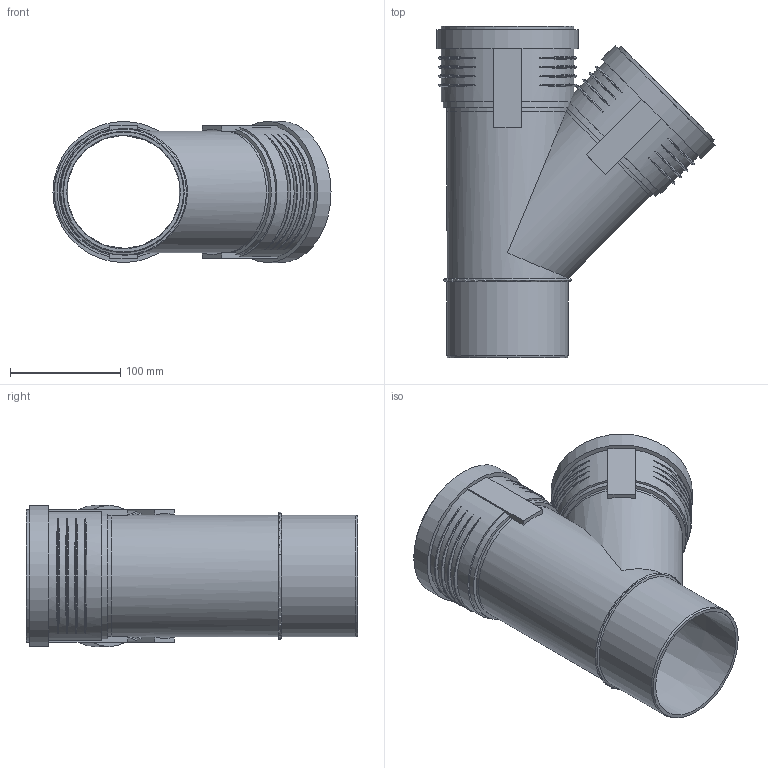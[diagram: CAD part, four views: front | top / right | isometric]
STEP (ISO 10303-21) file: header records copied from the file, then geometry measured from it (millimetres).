
FILE_DESCRIPTION(/* description */ (''),/* implementation_level */ '2;1');
FILE_NAME(/* name */ 'Z:\Geberit\Export\NewStep\390535.stp',/* time_stamp */ '2014-04-02T08:14:27+02:00',/* author */ ('ML'),/* organization */ (''),/* preprocessor_version */ 'ST-DEVELOPER v15.2',/* originating_system */ 'Autodesk Inventor 2014',/* authorisation */ '');
FILE_SCHEMA (('AUTOMOTIVE_DESIGN { 1 0 10303 214 3 1 1 }'));
Length unit declared in the file: millimetre
Products named in the file (4): 861349; 861404; 861404_1; 390535
Bounding box: 252.34 x 301.1 x 128.1 mm (x, y, z)
Volume: 573355.6 mm3; surface area: 330874.5 mm2
Topology: 3 solids, 3 shells, 127 faces, 313 edges, 218 vertices
Faces by surface type: torus 50, plane 37, cylinder 31, cone 9
Full cylindrical faces by diameter (mm): 103 x1, 103.2 x2, 110.2 x5, 113.3 x4, 120.3 x2, 121.1 x2, 128.1 x2
Entity records: 5287 total; most frequent: CARTESIAN_POINT 2280, ORIENTED_EDGE 558, DIRECTION 550, EDGE_CURVE 279, AXIS2_PLACEMENT_3D 239, VERTEX_POINT 211, EDGE_LOOP 188, ADVANCED_FACE 127
